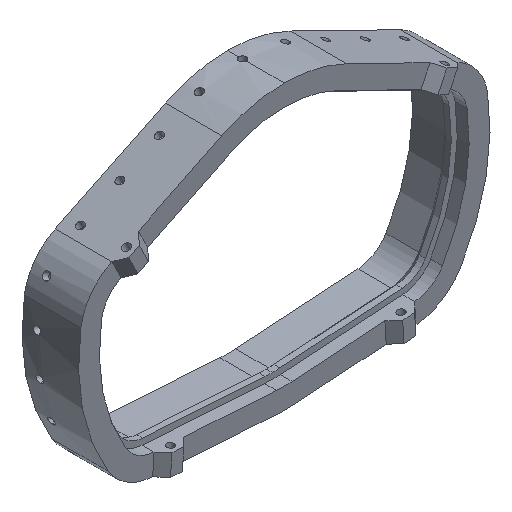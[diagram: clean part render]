
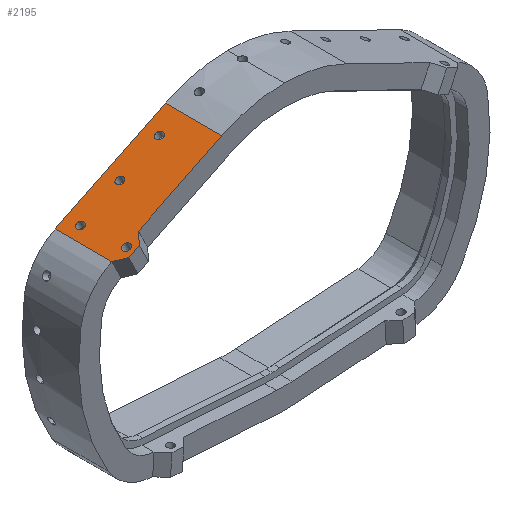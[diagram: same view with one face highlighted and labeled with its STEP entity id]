
A CAD part, isometric view. The second image highlights one B-rep face of the part: STEP entity #2195.
In plain terms, the highlighted planar face has unit normal (-0.44, 0, 0.898).
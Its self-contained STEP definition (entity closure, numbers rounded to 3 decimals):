
#3 = DIRECTION ( 'NONE',  ( -0.44, 0., 0.898 ) ) ;
#4 = FACE_BOUND ( 'NONE', #4735, .T. ) ;
#10 = LINE ( 'NONE', #3654, #447 ) ;
#35 = PLANE ( 'NONE',  #6081 ) ;
#52 = EDGE_CURVE ( 'NONE', #4869, #5505, #10, .T. ) ;
#92 = DIRECTION ( 'NONE',  ( 0.898, 0., 0.44 ) ) ;
#111 = EDGE_CURVE ( 'NONE', #4622, #5505, #6388, .T. ) ;
#187 = CIRCLE ( 'NONE', #6517, 1.25 ) ;
#204 = CIRCLE ( 'NONE', #5762, 1.25 ) ;
#225 = ORIENTED_EDGE ( 'NONE', *, *, #2283, .F. ) ;
#337 = EDGE_CURVE ( 'NONE', #513, #804, #3413, .T. ) ;
#355 = ORIENTED_EDGE ( 'NONE', *, *, #5087, .F. ) ;
#405 = CARTESIAN_POINT ( 'NONE',  ( -27.315, 86.097, 242.724 ) ) ;
#447 = VECTOR ( 'NONE', #3728, 1000. ) ;
#513 = VERTEX_POINT ( 'NONE', #4574 ) ;
#535 = CARTESIAN_POINT ( 'NONE',  ( -26.193, 86.097, 243.274 ) ) ;
#667 = LINE ( 'NONE', #3797, #3841 ) ;
#671 = CARTESIAN_POINT ( 'NONE',  ( -127.056, -16.811, 193.876 ) ) ;
#704 = EDGE_CURVE ( 'NONE', #4622, #6122, #5209, .T. ) ;
#769 = DIRECTION ( 'NONE',  ( 0.635, 0.707, 0.311 ) ) ;
#804 = VERTEX_POINT ( 'NONE', #1361 ) ;
#810 = CARTESIAN_POINT ( 'NONE',  ( -50.577, 71.597, 231.332 ) ) ;
#825 = CARTESIAN_POINT ( 'NONE',  ( -19.178, -95.719, 246.71 ) ) ;
#970 = FACE_BOUND ( 'NONE', #4374, .T. ) ;
#995 = CARTESIAN_POINT ( 'NONE',  ( -52.676, 86.097, 230.304 ) ) ;
#1044 = AXIS2_PLACEMENT_3D ( 'NONE', #6455, #4483, #3344 ) ;
#1092 = DIRECTION ( 'NONE',  ( 0., 1., 0. ) ) ;
#1169 = CARTESIAN_POINT ( 'NONE',  ( -49.903, 69.097, 231.662 ) ) ;
#1287 = CIRCLE ( 'NONE', #5645, 1.25 ) ;
#1332 = DIRECTION ( 'NONE',  ( 0.898, 0., 0.44 ) ) ;
#1333 = EDGE_CURVE ( 'NONE', #6386, #2959, #5180, .T. ) ;
#1361 = CARTESIAN_POINT ( 'NONE',  ( -19.178, 91.097, 246.71 ) ) ;
#1462 = VERTEX_POINT ( 'NONE', #4666 ) ;
#1482 = VERTEX_POINT ( 'NONE', #5320 ) ;
#1509 = CARTESIAN_POINT ( 'NONE',  ( -39.434, 86.097, 236.789 ) ) ;
#1514 = ORIENTED_EDGE ( 'NONE', *, *, #337, .T. ) ;
#1530 = EDGE_CURVE ( 'NONE', #2959, #6386, #6701, .T. ) ;
#1609 = DIRECTION ( 'NONE',  ( 0., 1., 0. ) ) ;
#1680 = VERTEX_POINT ( 'NONE', #6447 ) ;
#1714 = DIRECTION ( 'NONE',  ( 0.898, 0., 0.44 ) ) ;
#1918 = DIRECTION ( 'NONE',  ( 0., 1., 0. ) ) ;
#1978 = CARTESIAN_POINT ( 'NONE',  ( -47.209, 72.097, 232.981 ) ) ;
#1997 = FACE_BOUND ( 'NONE', #4776, .T. ) ;
#2070 = DIRECTION ( 'NONE',  ( -0.44, 0., 0.898 ) ) ;
#2179 = CARTESIAN_POINT ( 'NONE',  ( -56.19, -95.719, 228.583 ) ) ;
#2195 = ADVANCED_FACE ( 'NONE', ( #4, #1997, #3010, #970, #4235 ), #35, .T. ) ;
#2283 = EDGE_CURVE ( 'NONE', #5705, #2341, #1287, .T. ) ;
#2292 = DIRECTION ( 'NONE',  ( 0., 1., 0. ) ) ;
#2341 = VERTEX_POINT ( 'NONE', #3345 ) ;
#2344 = ORIENTED_EDGE ( 'NONE', *, *, #2560, .F. ) ;
#2507 = EDGE_LOOP ( 'NONE', ( #2344, #3387 ) ) ;
#2560 = EDGE_CURVE ( 'NONE', #1462, #1482, #5860, .T. ) ;
#2586 = CARTESIAN_POINT ( 'NONE',  ( -51.7, 71.597, 230.782 ) ) ;
#2665 = DIRECTION ( 'NONE',  ( -0.44, 0., 0.898 ) ) ;
#2687 = DIRECTION ( 'NONE',  ( -0.44, 0., 0.898 ) ) ;
#2699 = ORIENTED_EDGE ( 'NONE', *, *, #5231, .F. ) ;
#2850 = CIRCLE ( 'NONE', #6669, 1.25 ) ;
#2875 = ORIENTED_EDGE ( 'NONE', *, *, #4834, .F. ) ;
#2959 = VERTEX_POINT ( 'NONE', #4038 ) ;
#3007 = VECTOR ( 'NONE', #769, 1000. ) ;
#3010 = FACE_BOUND ( 'NONE', #2507, .T. ) ;
#3023 = AXIS2_PLACEMENT_3D ( 'NONE', #995, #3061, #3088 ) ;
#3039 = CARTESIAN_POINT ( 'NONE',  ( -52.676, 86.097, 230.304 ) ) ;
#3061 = DIRECTION ( 'NONE',  ( -0.44, 0., 0.898 ) ) ;
#3088 = DIRECTION ( 'NONE',  ( 0., 1., 0. ) ) ;
#3092 = EDGE_CURVE ( 'NONE', #1482, #1462, #5990, .T. ) ;
#3153 = ORIENTED_EDGE ( 'NONE', *, *, #3897, .T. ) ;
#3223 = CARTESIAN_POINT ( 'NONE',  ( -53.496, 69.097, 229.902 ) ) ;
#3246 = DIRECTION ( 'NONE',  ( 0.635, -0.707, 0.311 ) ) ;
#3254 = VERTEX_POINT ( 'NONE', #1978 ) ;
#3344 = DIRECTION ( 'NONE',  ( 0.898, 0., 0.44 ) ) ;
#3345 = CARTESIAN_POINT ( 'NONE',  ( -25.07, 86.097, 243.824 ) ) ;
#3370 = AXIS2_PLACEMENT_3D ( 'NONE', #3039, #3, #1609 ) ;
#3387 = ORIENTED_EDGE ( 'NONE', *, *, #3092, .F. ) ;
#3413 = LINE ( 'NONE', #825, #6440 ) ;
#3515 = LINE ( 'NONE', #6619, #6186 ) ;
#3579 = DIRECTION ( 'NONE',  ( -0.44, 0., 0.898 ) ) ;
#3654 = CARTESIAN_POINT ( 'NONE',  ( -56.19, 69.097, 228.583 ) ) ;
#3728 = DIRECTION ( 'NONE',  ( -0.898, 0., -0.44 ) ) ;
#3797 = CARTESIAN_POINT ( 'NONE',  ( -56.19, 72.097, 228.583 ) ) ;
#3841 = VECTOR ( 'NONE', #3864, 1000. ) ;
#3864 = DIRECTION ( 'NONE',  ( -0.898, 0., -0.44 ) ) ;
#3897 = EDGE_CURVE ( 'NONE', #4869, #3254, #5342, .T. ) ;
#3963 = CARTESIAN_POINT ( 'NONE',  ( -39.434, 86.097, 236.789 ) ) ;
#4038 = CARTESIAN_POINT ( 'NONE',  ( -52.822, 71.597, 230.232 ) ) ;
#4047 = DIRECTION ( 'NONE',  ( 0., 1., 0. ) ) ;
#4226 = VERTEX_POINT ( 'NONE', #6640 ) ;
#4235 = FACE_OUTER_BOUND ( 'NONE', #6610, .T. ) ;
#4267 = CARTESIAN_POINT ( 'NONE',  ( -56.19, -95.719, 228.583 ) ) ;
#4329 = ORIENTED_EDGE ( 'NONE', *, *, #704, .F. ) ;
#4374 = EDGE_LOOP ( 'NONE', ( #5335, #4859 ) ) ;
#4384 = ORIENTED_EDGE ( 'NONE', *, *, #6695, .F. ) ;
#4483 = DIRECTION ( 'NONE',  ( -0.44, 0., 0.898 ) ) ;
#4574 = CARTESIAN_POINT ( 'NONE',  ( -19.178, 72.097, 246.71 ) ) ;
#4622 = VERTEX_POINT ( 'NONE', #6092 ) ;
#4657 = CARTESIAN_POINT ( 'NONE',  ( -56.19, 91.097, 228.583 ) ) ;
#4666 = CARTESIAN_POINT ( 'NONE',  ( -51.554, 86.097, 230.854 ) ) ;
#4709 = DIRECTION ( 'NONE',  ( 0., 1., 0. ) ) ;
#4735 = EDGE_LOOP ( 'NONE', ( #5949, #225 ) ) ;
#4776 = EDGE_LOOP ( 'NONE', ( #355, #4384 ) ) ;
#4809 = CARTESIAN_POINT ( 'NONE',  ( -26.193, 86.097, 243.274 ) ) ;
#4834 = EDGE_CURVE ( 'NONE', #513, #3254, #667, .T. ) ;
#4859 = ORIENTED_EDGE ( 'NONE', *, *, #1530, .F. ) ;
#4869 = VERTEX_POINT ( 'NONE', #1169 ) ;
#4933 = VECTOR ( 'NONE', #6337, 1000. ) ;
#5071 = AXIS2_PLACEMENT_3D ( 'NONE', #2586, #2687, #92 ) ;
#5087 = EDGE_CURVE ( 'NONE', #4226, #1680, #2850, .T. ) ;
#5180 = CIRCLE ( 'NONE', #1044, 1.25 ) ;
#5209 = LINE ( 'NONE', #2179, #4933 ) ;
#5231 = EDGE_CURVE ( 'NONE', #6122, #804, #3515, .T. ) ;
#5243 = VECTOR ( 'NONE', #3246, 1000. ) ;
#5244 = ORIENTED_EDGE ( 'NONE', *, *, #52, .F. ) ;
#5320 = CARTESIAN_POINT ( 'NONE',  ( -53.799, 86.097, 229.754 ) ) ;
#5335 = ORIENTED_EDGE ( 'NONE', *, *, #1333, .F. ) ;
#5342 = LINE ( 'NONE', #671, #3007 ) ;
#5505 = VERTEX_POINT ( 'NONE', #3223 ) ;
#5632 = DIRECTION ( 'NONE',  ( -0.44, 0., 0.898 ) ) ;
#5645 = AXIS2_PLACEMENT_3D ( 'NONE', #4809, #2665, #4709 ) ;
#5700 = EDGE_CURVE ( 'NONE', #2341, #5705, #187, .T. ) ;
#5705 = VERTEX_POINT ( 'NONE', #405 ) ;
#5762 = AXIS2_PLACEMENT_3D ( 'NONE', #3963, #5632, #1918 ) ;
#5778 = CARTESIAN_POINT ( 'NONE',  ( 19.166, -11.811, 265.489 ) ) ;
#5860 = CIRCLE ( 'NONE', #3023, 1.25 ) ;
#5949 = ORIENTED_EDGE ( 'NONE', *, *, #5700, .F. ) ;
#5990 = CIRCLE ( 'NONE', #3370, 1.25 ) ;
#6081 = AXIS2_PLACEMENT_3D ( 'NONE', #4267, #6315, #1714 ) ;
#6092 = CARTESIAN_POINT ( 'NONE',  ( -56.19, 72.097, 228.583 ) ) ;
#6122 = VERTEX_POINT ( 'NONE', #4657 ) ;
#6186 = VECTOR ( 'NONE', #1332, 1000. ) ;
#6315 = DIRECTION ( 'NONE',  ( -0.44, 0., 0.898 ) ) ;
#6337 = DIRECTION ( 'NONE',  ( 0., 1., 0. ) ) ;
#6386 = VERTEX_POINT ( 'NONE', #810 ) ;
#6388 = LINE ( 'NONE', #5778, #5243 ) ;
#6440 = VECTOR ( 'NONE', #2292, 1000. ) ;
#6447 = CARTESIAN_POINT ( 'NONE',  ( -40.557, 86.097, 236.239 ) ) ;
#6455 = CARTESIAN_POINT ( 'NONE',  ( -51.7, 71.597, 230.782 ) ) ;
#6517 = AXIS2_PLACEMENT_3D ( 'NONE', #535, #2070, #4047 ) ;
#6578 = ORIENTED_EDGE ( 'NONE', *, *, #111, .T. ) ;
#6610 = EDGE_LOOP ( 'NONE', ( #5244, #3153, #2875, #1514, #2699, #4329, #6578 ) ) ;
#6619 = CARTESIAN_POINT ( 'NONE',  ( -56.19, 91.097, 228.583 ) ) ;
#6640 = CARTESIAN_POINT ( 'NONE',  ( -38.312, 86.097, 237.339 ) ) ;
#6669 = AXIS2_PLACEMENT_3D ( 'NONE', #1509, #3579, #1092 ) ;
#6695 = EDGE_CURVE ( 'NONE', #1680, #4226, #204, .T. ) ;
#6701 = CIRCLE ( 'NONE', #5071, 1.25 ) ;
